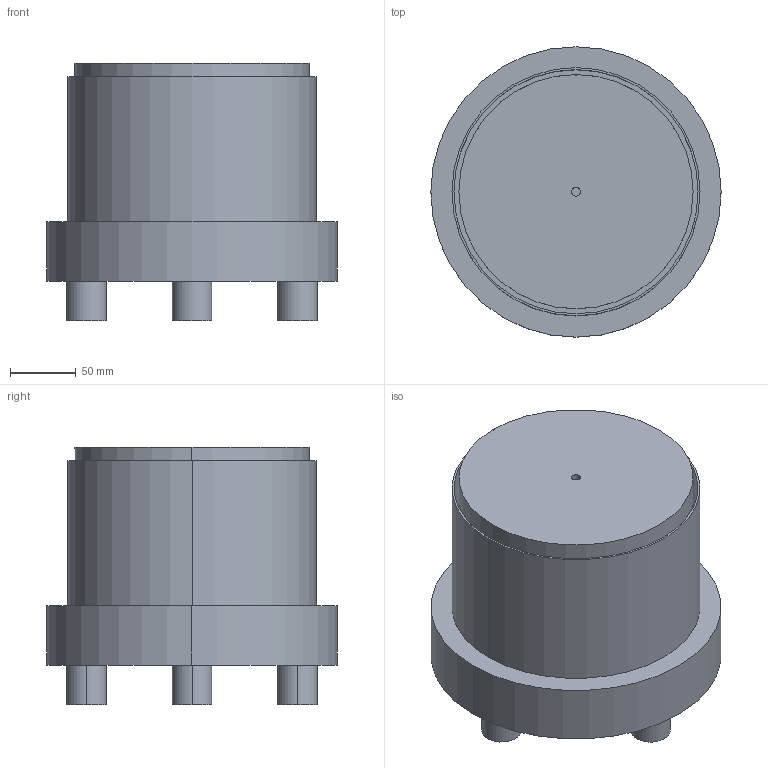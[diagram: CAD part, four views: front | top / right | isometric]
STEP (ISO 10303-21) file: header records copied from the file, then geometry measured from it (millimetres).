
FILE_DESCRIPTION (( 'STEP AP214' ), '1' );
FILE_NAME ('WIBOSCVB200 Napêd wibracyjny cylindryczny.STEP', '2025-06-03T12:34:13', ( '' ), ( '' ), 'SwSTEP 2.0', 'SolidWorks 2024', '' );
FILE_SCHEMA (( 'AUTOMOTIVE_DESIGN' ));
Length unit declared in the file: millimetre
Products named in the file (1): WIBOSCVB200 Napęd wibracyjny cylindryczny
Bounding box: 220 x 220 x 195 mm (x, y, z)
Volume: 2386266.5 mm3; surface area: 308336.8 mm2
Topology: 2 solids, 2 shells, 32 faces, 66 edges, 44 vertices
Faces by surface type: cylinder 18, plane 14
Entity records: 904 total; most frequent: DIRECTION 170, CARTESIAN_POINT 143, ORIENTED_EDGE 132, AXIS2_PLACEMENT_3D 71, EDGE_CURVE 66, VERTEX_POINT 44, EDGE_LOOP 40, CIRCLE 38
